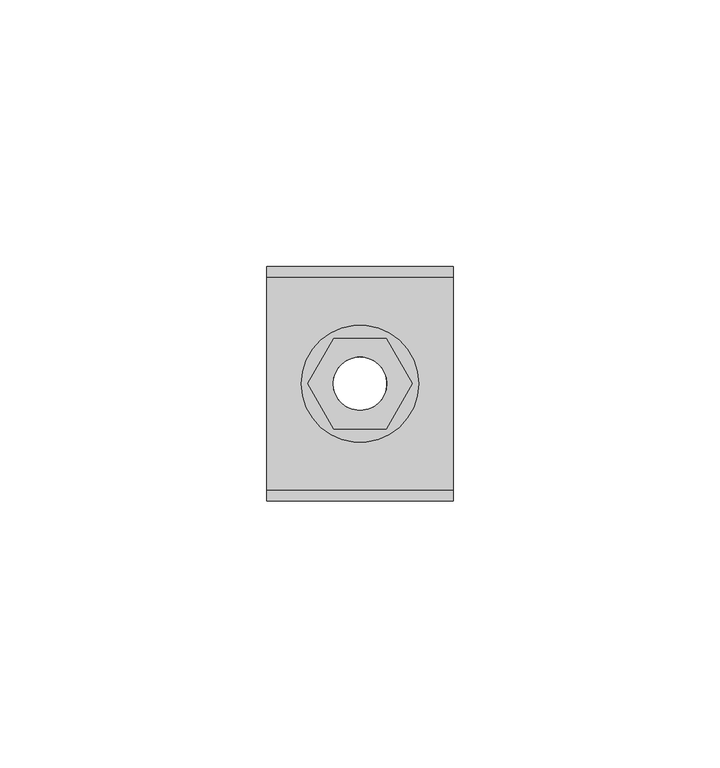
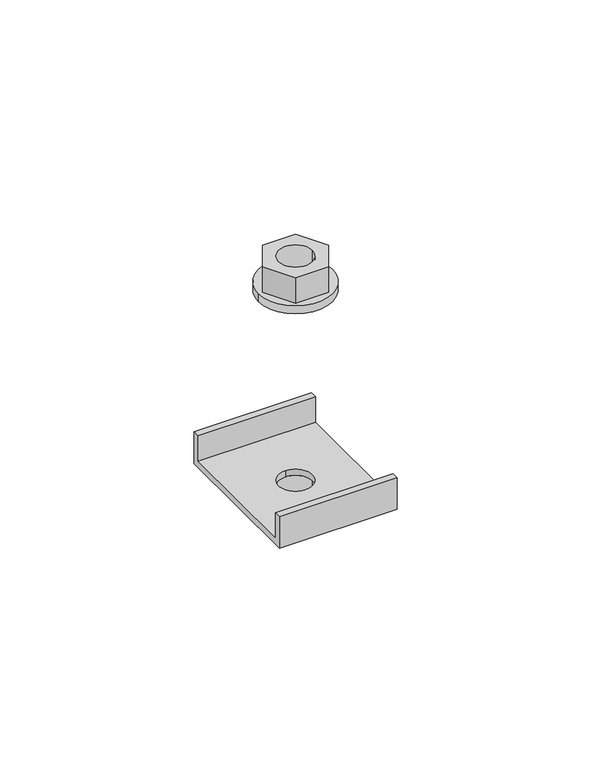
"""IFC4 building model written with IfcOpenShell, lengths in millimetres: unitary equipment geometry, NLRS_52_ME_FB_Geberit Pluvia ophangelement_PRO_101962 : 363.862.00.1 Geberit Pluvia ophangelement."""

import ifcopenshell
import ifcopenshell.guid

model = None  # the IFC model being written
_history = None  # IfcOwnerHistory: only IFC2X3 demands one
_inside = {}  # id of a spatial element -> (the spatial element, [elements in it])
_under = {}  # id of a project, library or spatial element -> (it, [spatial elements below it])
_declared = {}  # id of a project -> (the project, [libraries it declares])
_typed = {}  # id of a type object -> (the type object, [elements of that type])
_made_of = {}  # id of a material, layer set ... -> (it, [elements and type objects made of it])


def new_model(schema):
    """Start an empty IFC model of exactly this schema.

    Asked for "IFC4X3", IfcOpenShell would pick the latest addendum, in which some entities
    have other attributes; the version numbers below select the first issue.
    IFC2X3 requires an IfcOwnerHistory on every rooted entity: one is made here for all.
    """
    global model, _history
    if schema == "IFC4X3":
        model = ifcopenshell.file(schema_version=(4, 3, 0, 0))
    else:
        model = ifcopenshell.file(schema=schema)
    _inside.clear()
    _under.clear()
    _declared.clear()
    _typed.clear()
    _made_of.clear()
    _history = None
    if model.schema == "IFC2X3":
        org = make("IfcOrganization", Name="unknown")
        user = make(
            "IfcPersonAndOrganization",
            ThePerson=make("IfcPerson", FamilyName="unknown"),
            TheOrganization=org,
        )
        app = make(
            "IfcApplication",
            ApplicationDeveloper=org,
            Version="unknown",
            ApplicationFullName="unknown",
            ApplicationIdentifier="unknown",
        )
        _history = make(
            "IfcOwnerHistory",
            OwningUser=user,
            OwningApplication=app,
            ChangeAction="ADDED",
            CreationDate=0,
        )
    return model


def make(cls, **values):
    """One entity of the class cls with the attributes given. An attribute that is None is left unset."""
    return model.create_entity(
        cls, **{name: value for name, value in values.items() if value is not None}
    )


def rooted(cls, **values):
    """An entity with a GlobalId (a new one), such as an element, a storey or a relation."""
    return make(cls, GlobalId=ifcopenshell.guid.new(), OwnerHistory=_history, **values)


def si_unit(unit_type, name, prefix=None):
    """IfcSIUnit, for example si_unit("LENGTHUNIT", "METRE", prefix="MILLI")."""
    return make("IfcSIUnit", UnitType=unit_type, Prefix=prefix, Name=name)


def assignment(units):
    """IfcUnitAssignment: the units of a project."""
    return None if units is None else make("IfcUnitAssignment", Units=units)


def point(xyz):
    """IfcCartesianPoint."""
    return None if xyz is None else make("IfcCartesianPoint", Coordinates=xyz)


def direction(xyz):
    """IfcDirection."""
    return None if xyz is None else make("IfcDirection", DirectionRatios=xyz)


def frame(location, z_axis=None, x_axis=None):
    """IfcAxis2Placement3D, a coordinate frame: its origin and axes. An axis left out is left unset."""
    return make(
        "IfcAxis2Placement3D",
        Location=point(location),
        Axis=direction(z_axis),
        RefDirection=direction(x_axis),
    )


def origin():
    """The frame at (0, 0, 0) with its axes left unset."""
    return frame((0.0, 0.0, 0.0))


def place(relative_to, where):
    """IfcLocalPlacement: puts the frame where relative to a parent placement (None: the world)."""
    return make(
        "IfcLocalPlacement", PlacementRelTo=relative_to, RelativePlacement=where
    )


def context(
    kind, dimensions, precision=None, world=None, true_north=None, identifier=None
):
    """IfcGeometricRepresentationContext, for example the 3D "Model" context."""
    return make(
        "IfcGeometricRepresentationContext",
        ContextIdentifier=identifier,
        ContextType=kind,
        CoordinateSpaceDimension=dimensions,
        Precision=precision,
        WorldCoordinateSystem=world,
        TrueNorth=true_north,
    )


def project(units=None, contexts=None):
    """IfcProject with its units and contexts."""
    return rooted(
        "IfcProject",
        Name="project",
        RepresentationContexts=contexts,
        UnitsInContext=assignment(units),
    )


def spatial(cls, under=None, at=None, **own):
    """A site, building, storey or space (cls), placed at a placement, below another one or the project."""
    s = rooted(cls, ObjectPlacement=at, **own)
    if under is not None:
        _under.setdefault(under.id(), (under, []))[1].append(s)
    return s


def polyline(points):
    """IfcPolyline through the points."""
    return make("IfcPolyline", Points=[point(p) for p in points])


def circle_curve(where, radius):
    """IfcCircle in the frame where."""
    return make("IfcCircle", Position=where, Radius=radius)


def shape(context_of_items, identifier, shape_type, items):
    """IfcShapeRepresentation: the items that make up one representation, for example the "Body"."""
    return make(
        "IfcShapeRepresentation",
        ContextOfItems=context_of_items,
        RepresentationIdentifier=identifier,
        RepresentationType=shape_type,
        Items=items,
    )


def source(mapping_origin, context_of_items, identifier, shape_type, items):
    """IfcRepresentationMap: a shape defined once, which mapped items show again and again."""
    return make(
        "IfcRepresentationMap",
        MappingOrigin=mapping_origin,
        MappedRepresentation=shape(context_of_items, identifier, shape_type, items),
    )


def transform(
    local_origin,
    x_axis=None,
    y_axis=None,
    z_axis=None,
    scale=None,
    scale2=None,
    scale3=None,
    uniform=True,
):
    """IfcCartesianTransformationOperator3D, or its non-uniform kind. x_axis, y_axis, z_axis: its Axis1, 2, 3."""
    if uniform:
        return make(
            "IfcCartesianTransformationOperator3D",
            Axis1=direction(x_axis),
            Axis2=direction(y_axis),
            LocalOrigin=point(local_origin),
            Scale=scale,
            Axis3=direction(z_axis),
        )
    return make(
        "IfcCartesianTransformationOperator3DnonUniform",
        Axis1=direction(x_axis),
        Axis2=direction(y_axis),
        LocalOrigin=point(local_origin),
        Scale=scale,
        Axis3=direction(z_axis),
        Scale2=scale2,
        Scale3=scale3,
    )


def mapped(mapping_source, mapping_target):
    """IfcMappedItem: shows the shape of a source again, moved by a transform."""
    return make(
        "IfcMappedItem", MappingSource=mapping_source, MappingTarget=mapping_target
    )


def made_of(thing, what):
    """Note that an element or type object is made of a material, layer set ...; save() writes the relation."""
    if what is not None:
        _made_of.setdefault(what.id(), (what, []))[1].append(thing)
    return thing


def element(
    cls,
    number,
    at=None,
    inside=None,
    cuts=None,
    type_object=None,
    material=None,
    context=None,
    identifier="Body",
    shape_type=None,
    held_by="IfcProductDefinitionShape",
    body=None,
    shapes=None,
    **own,
):
    """One element of the class cls, such as IfcWall. Its Tag is "e" and its number.

    at: its placement. inside: the storey or other place that contains it. cuts: it is an
    opening in that element (IfcRelVoidsElement). A single representation is given by context,
    identifier, shape_type and body (its items); several are given by shapes. held_by: the class
    of the entity that holds the representations. save() writes the other relations.
    """
    e = rooted(cls, Tag="e%d" % number, ObjectPlacement=at, **own)
    if body is not None:
        shapes = [shape(context, identifier, shape_type, body)]
    if shapes is not None:
        e.Representation = make(held_by, Representations=shapes)
    if inside is not None:
        _inside.setdefault(inside.id(), (inside, []))[1].append(e)
    if cuts is not None:
        rooted(
            "IfcRelVoidsElement", RelatingBuildingElement=cuts, RelatedOpeningElement=e
        )
    if type_object is not None:
        _typed.setdefault(type_object.id(), (type_object, []))[1].append(e)
    return made_of(e, material)


def aggregate(whole, parts):
    """IfcRelAggregates: a whole, such as a stair, and the parts it consists of."""
    return rooted("IfcRelAggregates", RelatingObject=whole, RelatedObjects=parts)


def save(model, path):
    """Write the relations noted so far, then the file.

    IfcRelAggregates (storeys below a building ...), IfcRelContainedInSpatialStructure (elements
    in a storey), IfcRelDefinesByType, IfcRelAssociatesMaterial and IfcRelDeclares: one each for
    every whole, place, type object, material and project.
    """
    for whole, parts in _under.values():
        aggregate(whole, parts)
    for where, things in _inside.values():
        rooted(
            "IfcRelContainedInSpatialStructure",
            RelatedElements=things,
            RelatingStructure=where,
        )
    for kind, things in _typed.values():
        rooted("IfcRelDefinesByType", RelatedObjects=things, RelatingType=kind)
    for what, things in _made_of.values():
        rooted("IfcRelAssociatesMaterial", RelatedObjects=things, RelatingMaterial=what)
    for by, libraries in _declared.values():
        rooted("IfcRelDeclares", RelatingContext=by, RelatedDefinitions=libraries)
    model.write(path)


def plane_surface(at):
    """IfcPlane: the flat surface through the origin of the frame at, square to its z axis."""
    return make("IfcPlane", Position=at)


def cylinder_surface(at, radius):
    """IfcCylindricalSurface: all points at the distance radius from the z axis of the frame at."""
    return make("IfcCylindricalSurface", Position=at, Radius=radius)


def revolved_surface(curve, axis_point, axis_direction):
    """IfcSurfaceOfRevolution: the curve turned about the line through axis_point along axis_direction."""
    return make(
        "IfcSurfaceOfRevolution",
        SweptCurve=make("IfcArbitraryOpenProfileDef", ProfileType="CURVE", Curve=curve),
        AxisPosition=make("IfcAxis1Placement", Location=point(axis_point), Axis=direction(axis_direction)),
    )


def advanced_brep(points, edges, surfaces, faces):
    """IfcAdvancedBrep: a solid bounded by faces that lie on surfaces and meet in shared edges.

    An edge is (start, end): straight between two places in points (the first is 0);
    or (start, end, curve); or (start, end, curve, False) where it runs against its curve.
    A face is (place in surfaces, loops), or (place, loops, False) where it looks against
    its surface's normal. A loop lists edges by number (the first is 1), with a minus sign
    where the edge is run from its end to its start. The first loop is the outer one.
    """
    corners = [point(p) for p in points]
    vertices = [make("IfcVertexPoint", VertexGeometry=c) for c in corners]
    made = []
    for start, end, *more in edges:
        made.append(
            make(
                "IfcEdgeCurve",
                EdgeStart=vertices[start],
                EdgeEnd=vertices[end],
                EdgeGeometry=more[0] if more else make("IfcPolyline", Points=[corners[start], corners[end]]),
                SameSense=more[1] if len(more) > 1 else True,
            )
        )
    hull = []
    for where, loops, *sense in faces:
        bounds = []
        for j, loop in enumerate(loops):
            ring = [make("IfcOrientedEdge", EdgeElement=made[abs(k) - 1], Orientation=k > 0) for k in loop]
            bounds.append(
                make(
                    "IfcFaceOuterBound" if j == 0 else "IfcFaceBound",
                    Bound=make("IfcEdgeLoop", EdgeList=ring),
                    Orientation=True,
                )
            )
        hull.append(make("IfcAdvancedFace", Bounds=bounds, FaceSurface=surfaces[where], SameSense=sense[0] if sense else True))
    return make("IfcAdvancedBrep", Outer=make("IfcClosedShell", CfsFaces=hull))


def unitary_equipment_9ac4ea66(model_context):
    return source(origin(), model_context, "Body", "AdvancedBrep", [
        advanced_brep(
        [(-17.5, -22.0, -62.0), (-17.5, -22.0, -52.0), (-17.5, -20.0, -52.0), (-17.5, -20.0, -60.0), (-17.5, 20.0, -60.0), (-17.5, 20.0, -52.0), (-17.5, 22.0, -52.0), (-17.5, 22.0, -62.0), (17.5, -22.0, -62.0), (17.5, 22.0, -62.0), (17.5, 22.0, -52.0), (17.5, 20.0, -52.0), (17.5, 20.0, -60.0), (17.5, -20.0, -60.0), (17.5, -20.0, -52.0), (17.5, -22.0, -52.0), (-9.8149546, 0.0, -62.0), (-4.9074773, -8.5, -62.0), (4.9074773, -8.5, -62.0), (9.8149546, 0.0, -62.0), (4.9074773, 8.5, -62.0), (-4.9074773, 8.5, -62.0), (0.0, -5.0, -60.0), (0.0, 5.0, -60.0), (-9.8149546, 0.0, -70.0), (-4.9074773, 8.5, -70.0), (4.9074773, 8.5, -70.0), (9.8149546, 0.0, -70.0), (4.9074773, -8.5, -70.0), (-4.9074773, -8.5, -70.0), (-5.0, 0.0, -70.0), (5.0, 0.0, -70.0), (5.0, 0.0, -62.0), (0.0, 5.0, -62.0), (-5.0, 0.0, -62.0), (0.0, -5.0, -62.0)],
        [
            (0, 1),
            (1, 2),
            (2, 3),
            (3, 4),
            (4, 5),
            (5, 6),
            (6, 7),
            (7, 0),
            (8, 9),
            (9, 10),
            (10, 11),
            (11, 12),
            (12, 13),
            (13, 14),
            (14, 15),
            (15, 8),
            (0, 8),
            (15, 1),
            (5, 11),
            (10, 6),
            (9, 7),
            (16, 17),
            (17, 18),
            (18, 19),
            (19, 20),
            (20, 21),
            (21, 16),
            (4, 12),
            (2, 14),
            (13, 3),
            (22, 23, circle_curve(frame((0.0, 0.0, -60.0), z_axis=(0.0, 0.0, -1.0), x_axis=(0.0, -1.0, 0.0)), 5.0)),
            (23, 22, circle_curve(frame((0.0, 0.0, -60.0), z_axis=(0.0, 0.0, -1.0), x_axis=(0.0, -1.0, 0.0)), 5.0)),
            (24, 25),
            (25, 26),
            (26, 27),
            (27, 28),
            (28, 29),
            (29, 24),
            (30, 31, circle_curve(frame((0.0, 0.0, -70.0), z_axis=(0.0, 0.0, 1.0), x_axis=(1.0, 0.0, 0.0)), 5.0)),
            (31, 30, circle_curve(frame((0.0, 0.0, -70.0), z_axis=(0.0, 0.0, 1.0), x_axis=(1.0, 0.0, 0.0)), 5.0)),
            (29, 17),
            (16, 24),
            (28, 18),
            (27, 19),
            (26, 20),
            (25, 21),
            (31, 32),
            (32, 33, circle_curve(frame((0.0, 0.0, -62.0), z_axis=(0.0, 0.0, 1.0), x_axis=(1.0, 0.0, 0.0)), 5.0)),
            (33, 34, circle_curve(frame((0.0, 0.0, -62.0), z_axis=(0.0, 0.0, 1.0), x_axis=(1.0, 0.0, 0.0)), 5.0)),
            (34, 30),
            (34, 35, circle_curve(frame((0.0, 0.0, -62.0), z_axis=(0.0, 0.0, 1.0), x_axis=(1.0, 0.0, 0.0)), 5.0)),
            (35, 32, circle_curve(frame((0.0, 0.0, -62.0), z_axis=(0.0, 0.0, 1.0), x_axis=(1.0, 0.0, 0.0)), 5.0)),
            (22, 35),
            (33, 23),
        ],
        [
            plane_surface(frame((-17.5, 0.0, -60.0), z_axis=(-1.0, 0.0, 0.0), x_axis=(0.0, 0.0, 1.0))),
            plane_surface(frame((17.5, 0.0, -60.0), z_axis=(1.0, 0.0, 0.0), x_axis=(0.0, 0.0, 1.0))),
            plane_surface(frame((-17.5, -22.0, -62.0), z_axis=(0.0, -1.0, 0.0), x_axis=(1.0, 0.0, 0.0))),
            plane_surface(frame((-17.5, 20.0, -52.0), z_axis=(0.0, 0.0, 1.0), x_axis=(1.0, 0.0, 0.0))),
            plane_surface(frame((-17.5, 22.0, -52.0), z_axis=(0.0, 1.0, 0.0), x_axis=(1.0, 0.0, 0.0))),
            plane_surface(frame((-17.5, 22.0, -62.0), z_axis=(0.0, 0.0, -1.0), x_axis=(1.0, 0.0, 0.0))),
            plane_surface(frame((-17.5, 20.0, -60.0), z_axis=(0.0, -1.0, 0.0), x_axis=(1.0, 0.0, 0.0))),
            plane_surface(frame((-17.5, -20.0, -52.0), z_axis=(0.0, 1.0, 0.0), x_axis=(1.0, 0.0, 0.0))),
            plane_surface(frame((-17.5, -20.0, -60.0), z_axis=(0.0, 0.0, 1.0), x_axis=(1.0, 0.0, 0.0))),
            plane_surface(frame((-17.5, -22.0, -52.0), z_axis=(0.0, 0.0, 1.0), x_axis=(1.0, 0.0, 0.0))),
            plane_surface(frame((0.0, 0.0, -70.0), z_axis=(0.0, 0.0, -1.0), x_axis=(0.0, -1.0, 0.0))),
            plane_surface(frame((-9.8149546, 0.0, -62.0), z_axis=(-0.8660254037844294, -0.5000000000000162, 0.0), x_axis=(0.0, 0.0, -1.0))),
            plane_surface(frame((-4.9074773, -8.5, -62.0), z_axis=(0.0, -1.0, 0.0), x_axis=(0.0, 0.0, -1.0))),
            plane_surface(frame((4.9074773, -8.5, -62.0), z_axis=(0.8660254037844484, -0.4999999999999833, 0.0), x_axis=(0.0, 0.0, -1.0))),
            plane_surface(frame((9.8149546, 0.0, -62.0), z_axis=(0.8660254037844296, 0.5000000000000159, 0.0), x_axis=(0.0, 0.0, -1.0))),
            plane_surface(frame((4.9074773, 8.5, -62.0), z_axis=(0.0, 1.0, 0.0), x_axis=(0.0, 0.0, -1.0))),
            plane_surface(frame((-4.9074773, 8.5, -62.0), z_axis=(-0.8660254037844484, 0.4999999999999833, 0.0), x_axis=(0.0, 0.0, -1.0))),
            revolved_surface(polyline([(5.0, 0.0, -70.0), (5.0, 0.0, -62.0)]), (0.0, 0.0, -62.0), (0.0, 0.0, -1.0)),
            revolved_surface(polyline([(0.0, -5.0, -60.0), (0.0, -5.0, -62.0)]), (0.0, 0.0, -60.0), (0.0, 0.0, 1.0)),
        ],
        [
            (0, [[1, 2, 3, 4, 5, 6, 7, 8]]),
            (1, [[9, 10, 11, 12, 13, 14, 15, 16]]),
            (2, [[-1, 17, -16, 18]]),
            (3, [[-6, 19, -11, 20]]),
            (4, [[-7, -20, -10, 21]]),
            (5, [[-8, -21, -9, -17], [22, 23, 24, 25, 26, 27]]),
            (6, [[-5, 28, -12, -19]]),
            (7, [[-3, 29, -14, 30]]),
            (8, [[-4, -30, -13, -28], [31, 32]]),
            (9, [[-2, -18, -15, -29]]),
            (10, [[33, 34, 35, 36, 37, 38], [39, 40]]),
            (11, [[-38, 41, -22, 42]]),
            (12, [[-37, 43, -23, -41]]),
            (13, [[-36, 44, -24, -43]]),
            (14, [[-35, 45, -25, -44]]),
            (15, [[-34, 46, -26, -45]]),
            (16, [[-33, -42, -27, -46]]),
            (17, [[-40, 47, 48, 49, 50]]),
            (17, [[-39, -50, 51, 52, -47]]),
            (18, [[53, -51, -49, 54, -31]]),
            (18, [[-53, -32, -54, -48, -52]]),
        ],
    ),
        advanced_brep(
        [(11.0, 0.0, 0.0), (-11.0, 0.0, 0.0), (5.0, 0.0, 0.0), (-5.0, 0.0, 0.0), (11.0, 0.0, 2.5), (-11.0, 0.0, 2.5), (-4.9074773, -8.5, 2.5), (-9.8149546, 0.0, 2.5), (-4.9074773, 8.5, 2.5), (4.9074773, 8.5, 2.5), (9.8149546, 0.0, 2.5), (4.9074773, -8.5, 2.5), (5.0, 0.0, 2.5), (-5.0, 0.0, 2.5), (-9.8149546, 0.0, 10.5), (-4.9074773, -8.5, 10.5), (4.9074773, -8.5, 10.5), (9.8149546, 0.0, 10.5), (4.9074773, 8.5, 10.5), (-4.9074773, 8.5, 10.5), (-5.0, 0.0, 10.5), (5.0, 0.0, 10.5)],
        [
            (0, 1, circle_curve(frame((0.0, 0.0, 0.0), z_axis=(0.0, 0.0, -1.0), x_axis=(-1.0, 0.0, 0.0)), 11.0)),
            (1, 0, circle_curve(frame((0.0, 0.0, 0.0), z_axis=(0.0, 0.0, -1.0), x_axis=(-1.0, 0.0, 0.0)), 11.0)),
            (2, 3, circle_curve(frame((0.0, 0.0, 0.0), z_axis=(0.0, 0.0, 1.0), x_axis=(-1.0, 0.0, 0.0)), 5.0)),
            (3, 2, circle_curve(frame((0.0, 0.0, 0.0), z_axis=(0.0, 0.0, 1.0), x_axis=(-1.0, 0.0, 0.0)), 5.0)),
            (4, 5, circle_curve(frame((0.0, 0.0, 2.5), z_axis=(0.0, 0.0, 1.0), x_axis=(-1.0, 0.0, 0.0)), 11.0)),
            (5, 4, circle_curve(frame((0.0, 0.0, 2.5), z_axis=(0.0, 0.0, 1.0), x_axis=(-1.0, 0.0, 0.0)), 11.0)),
            (6, 7),
            (7, 8),
            (8, 9),
            (9, 10),
            (10, 11),
            (11, 6),
            (0, 4),
            (5, 1),
            (2, 12),
            (12, 13, circle_curve(frame((0.0, 0.0, 2.5), z_axis=(0.0, 0.0, 1.0), x_axis=(-1.0, 0.0, 0.0)), 5.0)),
            (13, 3),
            (13, 12, circle_curve(frame((0.0, 0.0, 2.5), z_axis=(0.0, 0.0, 1.0), x_axis=(-1.0, 0.0, 0.0)), 5.0)),
            (14, 15),
            (15, 16),
            (16, 17),
            (17, 18),
            (18, 19),
            (19, 14),
            (20, 21, circle_curve(frame((0.0, 0.0, 10.5), z_axis=(0.0, 0.0, -1.0), x_axis=(1.0, 0.0, 0.0)), 5.0)),
            (21, 20, circle_curve(frame((0.0, 0.0, 10.5), z_axis=(0.0, 0.0, -1.0), x_axis=(1.0, 0.0, 0.0)), 5.0)),
            (14, 7),
            (6, 15),
            (11, 16),
            (10, 17),
            (9, 18),
            (8, 19),
            (20, 13),
            (12, 21),
        ],
        [
            plane_surface(frame((-20.0, 0.0, 0.0), z_axis=(0.0, 0.0, -1.0), x_axis=(0.0, -1.0, 0.0))),
            plane_surface(frame((-20.0, 0.0, 2.5), z_axis=(0.0, 0.0, 1.0), x_axis=(0.0, -1.0, 0.0))),
            cylinder_surface(frame((0.0, 0.0, 0.0), z_axis=(0.0, 0.0, -1.0), x_axis=(-1.0, 0.0, 0.0)), 11.0),
            revolved_surface(polyline([(-5.0, 0.0, 2.5), (-5.0, 0.0, 0.0)]), (0.0, 0.0, 0.0), (0.0, 0.0, 1.0)),
            plane_surface(frame((0.0, 0.0, 10.5), z_axis=(0.0, 0.0, 1.0), x_axis=(0.0, -1.0, 0.0))),
            plane_surface(frame((-9.8149546, 0.0, 10.5), z_axis=(-0.8660254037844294, -0.5000000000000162, 0.0), x_axis=(0.0, 0.0, -1.0))),
            plane_surface(frame((-4.9074773, -8.5, 10.5), z_axis=(0.0, -1.0, 0.0), x_axis=(0.0, 0.0, -1.0))),
            plane_surface(frame((4.9074773, -8.5, 10.5), z_axis=(0.8660254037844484, -0.4999999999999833, 0.0), x_axis=(0.0, 0.0, -1.0))),
            plane_surface(frame((9.8149546, 0.0, 10.5), z_axis=(0.8660254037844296, 0.5000000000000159, 0.0), x_axis=(0.0, 0.0, -1.0))),
            plane_surface(frame((4.9074773, 8.5, 10.5), z_axis=(0.0, 1.0, 0.0), x_axis=(0.0, 0.0, -1.0))),
            plane_surface(frame((-4.9074773, 8.5, 10.5), z_axis=(-0.8660254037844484, 0.4999999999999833, 0.0), x_axis=(0.0, 0.0, -1.0))),
            revolved_surface(polyline([(5.0, 0.0, 2.5), (5.0, 0.0, 10.5)]), (0.0, 0.0, 10.5), (0.0, 0.0, -1.0)),
        ],
        [
            (0, [[1, 2], [3, 4]]),
            (1, [[5, 6], [7, 8, 9, 10, 11, 12]]),
            (2, [[-1, 13, -6, 14]]),
            (2, [[-2, -14, -5, -13]]),
            (3, [[-3, 15, 16, 17]]),
            (3, [[-4, -17, 18, -15]]),
            (4, [[19, 20, 21, 22, 23, 24], [25, 26]]),
            (5, [[-19, 27, -7, 28]]),
            (6, [[-20, -28, -12, 29]]),
            (7, [[-21, -29, -11, 30]]),
            (8, [[-22, -30, -10, 31]]),
            (9, [[-23, -31, -9, 32]]),
            (10, [[-24, -32, -8, -27]]),
            (11, [[-25, 33, -16, 34]]),
            (11, [[-26, -34, -18, -33]]),
        ],
    ),
    ])


if __name__ == "__main__":
    model = new_model("IFC4")
    model_context = context("Model", 3, world=origin())
    ifc_project = project(units=[si_unit("LENGTHUNIT", "METRE", prefix="MILLI")], contexts=[model_context])
    site = spatial("IfcSite", under=ifc_project)
    building = spatial("IfcBuilding", under=site)
    placement = place(None, origin())
    unitary_equipment_shape = unitary_equipment_9ac4ea66(model_context)
    element("IfcUnitaryEquipment", 1, ObjectType="NLRS_52_ME_FB_Geberit Pluvia ophangelement_PRO_101962 : 363.862.00.1 Geberit Pluvia ophangelement", at=placement, inside=building, context=model_context, shape_type="MappedRepresentation", body=[
        mapped(unitary_equipment_shape, transform((0.0, 0.0, 0.0), x_axis=(1.0, 0.0, 0.0), y_axis=(0.0, 1.0, 0.0), z_axis=(0.0, 0.0, 1.0))),
    ])
    save(model, "model.ifc")
